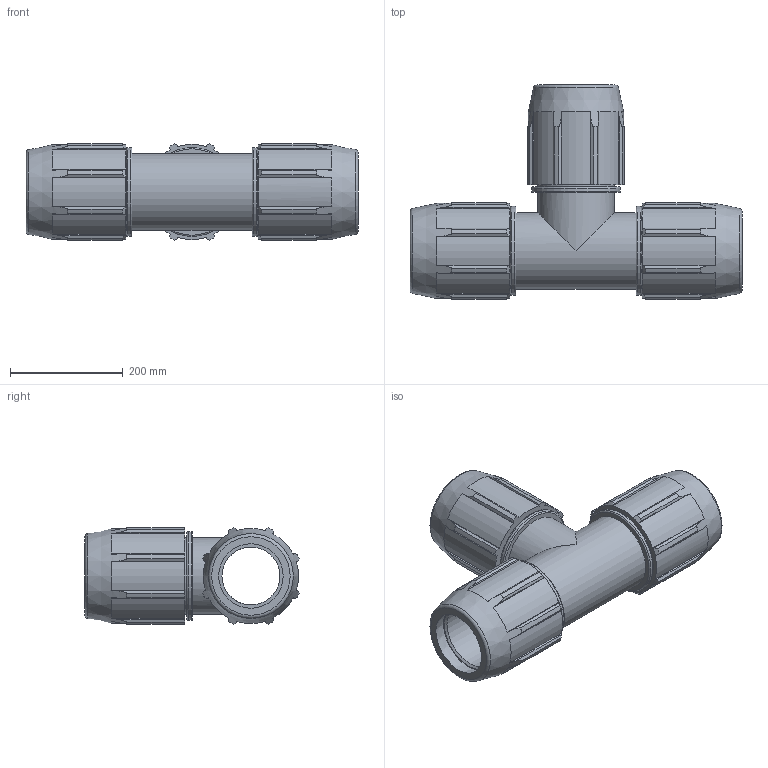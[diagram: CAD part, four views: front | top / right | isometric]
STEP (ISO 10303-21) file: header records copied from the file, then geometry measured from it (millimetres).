
FILE_DESCRIPTION(/* description */ ('PLASSON TEE 4'''' - 4'''' - 4'''''),/* implementation_level */ '2;1');
FILE_NAME(/* name */ 'C:\Dropbox\KIMPROJECTS-Inventor 2019\99-16-3568-Processing Inch\ASTM Compression 2021\0704M0\0704M0400.ipt.stp',/* time_stamp */ '2021-08-26T12:31:33+03:00',/* author */ ('KIM'),/* organization */ (''),/* preprocessor_version */ 'ST-DEVELOPER v17.2',/* originating_system */ 'Autodesk Inventor 2019',/* authorisation */ '');
FILE_SCHEMA (('AUTOMOTIVE_DESIGN { 1 0 10303 214 3 1 1 }'));
Length unit declared in the file: inch
Products named in the file (1): 0704M0400
Bounding box: 588.01 x 379.08 x 170.4 mm (x, y, z)
Volume: 7905428 mm3; surface area: 786105.2 mm2
Topology: 1 solids, 1 shells, 233 faces, 687 edges, 470 vertices
Faces by surface type: plane 114, cylinder 61, cone 49, torus 9
Full cylindrical faces by diameter (mm): 102.69 x2, 114.1 x3, 135.827 x5, 157.559 x3
Entity records: 8068 total; most frequent: CARTESIAN_POINT 1647, ORIENTED_EDGE 1374, DIRECTION 1274, EDGE_CURVE 687, AXIS2_PLACEMENT_3D 481, VERTEX_POINT 470, LINE 312, VECTOR 312
